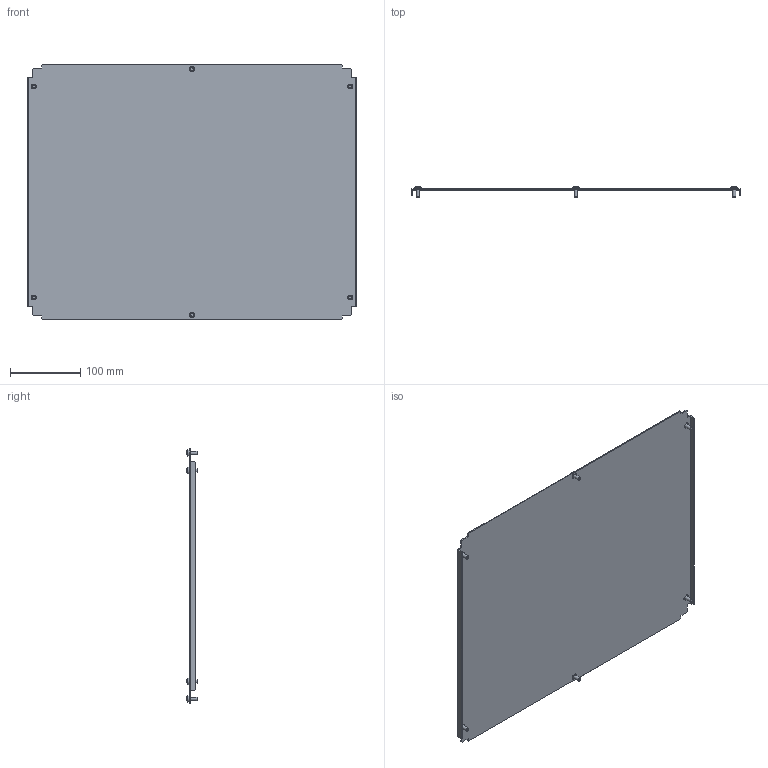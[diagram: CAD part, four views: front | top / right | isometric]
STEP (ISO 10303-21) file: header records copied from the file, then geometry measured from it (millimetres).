
FILE_DESCRIPTION (( 'STEP AP203' ), '1' );
FILE_NAME ('R5N1BP65.STEP', '2025-02-21T13:51:56', ( '' ), ( '' ), 'SwSTEP 2.0', 'SolidWorks 2022', '' );
FILE_SCHEMA (( 'CONFIG_CONTROL_DESIGN' ));
Length unit declared in the file: millimetre
Products named in the file (3): R5N1BP65; RB.1923.00.00.0_-23; M5x12 DIN 7500 C Torx Zinc_stright
Assembly tree (7 placements, depth 2):
  R5N1BP65
    RB.1923.00.00.0_-23
    M5x12 DIN 7500 C Torx Zinc_stright  x6
Bounding box: 468 x 15.56 x 362 mm (x, y, z)
Volume: 262486 mm3; surface area: 351869.4 mm2
Topology: 7 solids, 7 shells, 166 faces, 384 edges, 238 vertices
Faces by surface type: plane 106, cylinder 24, torus 12, cone 12, sphere 6, bspline 6
Full cylindrical faces by diameter (mm): 5 x6, 9.5 x6
Entity records: 3297 total; most frequent: CARTESIAN_POINT 674, ORIENTED_EDGE 448, DIRECTION 444, EDGE_CURVE 224, VECTOR 180, LINE 180, VERTEX_POINT 150, AXIS2_PLACEMENT_3D 132
